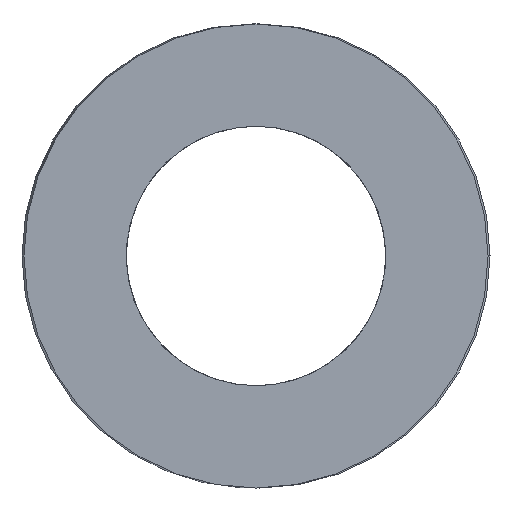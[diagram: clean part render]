
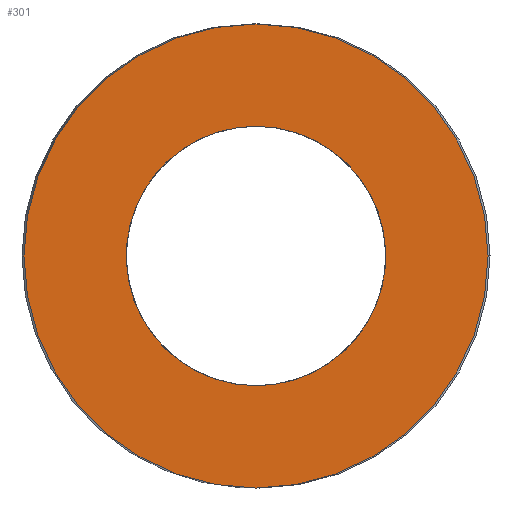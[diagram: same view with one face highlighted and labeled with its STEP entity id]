
A CAD part, left-side view. The second image highlights one B-rep face of the part: STEP entity #301.
In plain terms, the highlighted planar face has unit normal (-1, 0, 0).
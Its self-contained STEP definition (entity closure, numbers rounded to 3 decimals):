
#63=CARTESIAN_POINT('Vertex',(0.,12.25,0.)) ;
#77=CARTESIAN_POINT('Vertex',(0.,-12.25,0.)) ;
#80=CARTESIAN_POINT('Axis2P3D Location',(0.,0.,0.)) ;
#97=CARTESIAN_POINT('Axis2P3D Location',(0.,0.,0.)) ;
#232=CARTESIAN_POINT('Axis2P3D Location',(0.,6.125,0.)) ;
#242=CARTESIAN_POINT('Control Point',(0.,0.,-6.85)) ;
#243=CARTESIAN_POINT('Control Point',(0.,0.641,-6.85)) ;
#244=CARTESIAN_POINT('Control Point',(0.,1.282,-6.775)) ;
#245=CARTESIAN_POINT('Control Point',(0.,1.912,-6.625)) ;
#246=CARTESIAN_POINT('Control Point',(0.,3.124,-6.181)) ;
#247=CARTESIAN_POINT('Control Point',(0.,4.2,-5.468)) ;
#248=CARTESIAN_POINT('Control Point',(0.,4.694,-5.051)) ;
#249=CARTESIAN_POINT('Control Point',(0.,5.576,-4.107)) ;
#250=CARTESIAN_POINT('Control Point',(0.,6.215,-2.986)) ;
#251=CARTESIAN_POINT('Control Point',(0.,6.468,-2.39)) ;
#252=CARTESIAN_POINT('Control Point',(0.,6.829,-1.151)) ;
#253=CARTESIAN_POINT('Control Point',(0.,6.894,0.139)) ;
#254=CARTESIAN_POINT('Control Point',(0.,6.851,0.784)) ;
#255=CARTESIAN_POINT('Control Point',(0.,6.614,2.053)) ;
#256=CARTESIAN_POINT('Control Point',(0.,6.09,3.233)) ;
#257=CARTESIAN_POINT('Control Point',(0.,5.76,3.79)) ;
#258=CARTESIAN_POINT('Control Point',(0.,4.977,4.816)) ;
#259=CARTESIAN_POINT('Control Point',(0.,3.977,5.633)) ;
#260=CARTESIAN_POINT('Control Point',(0.,3.432,5.981)) ;
#261=CARTESIAN_POINT('Control Point',(0.,2.436,6.462)) ;
#262=CARTESIAN_POINT('Control Point',(0.,1.368,6.735)) ;
#263=CARTESIAN_POINT('Control Point',(0.,0.915,6.812)) ;
#264=CARTESIAN_POINT('Control Point',(0.,0.457,6.85)) ;
#265=CARTESIAN_POINT('Control Point',(0.,0.,6.85)) ;
#266=CARTESIAN_POINT('Vertex',(0.,0.,-6.85)) ;
#268=CARTESIAN_POINT('Vertex',(0.,0.,6.85)) ;
#272=CARTESIAN_POINT('Control Point',(0.,0.,6.85)) ;
#273=CARTESIAN_POINT('Control Point',(0.,-0.641,6.85)) ;
#274=CARTESIAN_POINT('Control Point',(0.,-1.282,6.775)) ;
#275=CARTESIAN_POINT('Control Point',(0.,-1.912,6.625)) ;
#276=CARTESIAN_POINT('Control Point',(0.,-3.124,6.181)) ;
#277=CARTESIAN_POINT('Control Point',(0.,-4.2,5.468)) ;
#278=CARTESIAN_POINT('Control Point',(0.,-4.694,5.051)) ;
#279=CARTESIAN_POINT('Control Point',(0.,-5.576,4.107)) ;
#280=CARTESIAN_POINT('Control Point',(0.,-6.215,2.986)) ;
#281=CARTESIAN_POINT('Control Point',(0.,-6.468,2.39)) ;
#282=CARTESIAN_POINT('Control Point',(0.,-6.829,1.151)) ;
#283=CARTESIAN_POINT('Control Point',(0.,-6.894,-0.139)) ;
#284=CARTESIAN_POINT('Control Point',(0.,-6.851,-0.784)) ;
#285=CARTESIAN_POINT('Control Point',(0.,-6.614,-2.053)) ;
#286=CARTESIAN_POINT('Control Point',(0.,-6.09,-3.233)) ;
#287=CARTESIAN_POINT('Control Point',(0.,-5.76,-3.79)) ;
#288=CARTESIAN_POINT('Control Point',(0.,-4.977,-4.816)) ;
#289=CARTESIAN_POINT('Control Point',(0.,-3.977,-5.633)) ;
#290=CARTESIAN_POINT('Control Point',(0.,-3.432,-5.981)) ;
#291=CARTESIAN_POINT('Control Point',(0.,-2.436,-6.462)) ;
#292=CARTESIAN_POINT('Control Point',(0.,-1.368,-6.735)) ;
#293=CARTESIAN_POINT('Control Point',(0.,-0.915,-6.812)) ;
#294=CARTESIAN_POINT('Control Point',(0.,-0.457,-6.85)) ;
#295=CARTESIAN_POINT('Control Point',(0.,0.,-6.85)) ;
#81=DIRECTION('Axis2P3D Direction',(1.,-0.,0.)) ;
#98=DIRECTION('Axis2P3D Direction',(1.,-0.,0.)) ;
#233=DIRECTION('Axis2P3D Direction',(-1.,0.,0.)) ;
#234=DIRECTION('Axis2P3D XDirection',(0.,1.,0.)) ;
#82=AXIS2_PLACEMENT_3D('Circle Axis2P3D',#80,#81,$) ;
#99=AXIS2_PLACEMENT_3D('Circle Axis2P3D',#97,#98,$) ;
#235=AXIS2_PLACEMENT_3D('Plane Axis2P3D',#232,#233,#234) ;
#238=ORIENTED_EDGE('',*,*,#84,.T.) ;
#239=ORIENTED_EDGE('',*,*,#101,.T.) ;
#298=ORIENTED_EDGE('',*,*,#270,.T.) ;
#299=ORIENTED_EDGE('',*,*,#296,.T.) ;
#300=FACE_BOUND('',#297,.T.) ;
#301=ADVANCED_FACE('392-B25-102',(#240,#300),#236,.T.) ;
#241=B_SPLINE_CURVE_WITH_KNOTS('',5,(#242,#243,#244,#245,#246,#247,#248,#249,#250,#251,#252,#253,#254,#255,#256,#257,#258,#259,#260,#261,#262,#263,#264,#265),.UNSPECIFIED.,.F.,.U.,(6,3,3,3,3,3,3,6),(0.,4.533,9.066,13.6,18.133,22.666,27.199,30.433),.UNSPECIFIED.) ;
#271=B_SPLINE_CURVE_WITH_KNOTS('',5,(#272,#273,#274,#275,#276,#277,#278,#279,#280,#281,#282,#283,#284,#285,#286,#287,#288,#289,#290,#291,#292,#293,#294,#295),.UNSPECIFIED.,.F.,.U.,(6,3,3,3,3,3,3,6),(0.,4.533,9.066,13.6,18.133,22.666,27.199,30.433),.UNSPECIFIED.) ;
#83=CIRCLE('generated circle',#82,12.25) ;
#100=CIRCLE('generated circle',#99,12.25) ;
#84=EDGE_CURVE('',#64,#78,#83,.F.) ;
#101=EDGE_CURVE('',#78,#64,#100,.F.) ;
#270=EDGE_CURVE('',#267,#269,#241,.T.) ;
#296=EDGE_CURVE('',#269,#267,#271,.T.) ;
#237=EDGE_LOOP('',(#238,#239)) ;
#297=EDGE_LOOP('',(#298,#299)) ;
#240=FACE_OUTER_BOUND('',#237,.T.) ;
#236=PLANE('Plane',#235) ;
#64=VERTEX_POINT('',#63) ;
#78=VERTEX_POINT('',#77) ;
#267=VERTEX_POINT('',#266) ;
#269=VERTEX_POINT('',#268) ;
